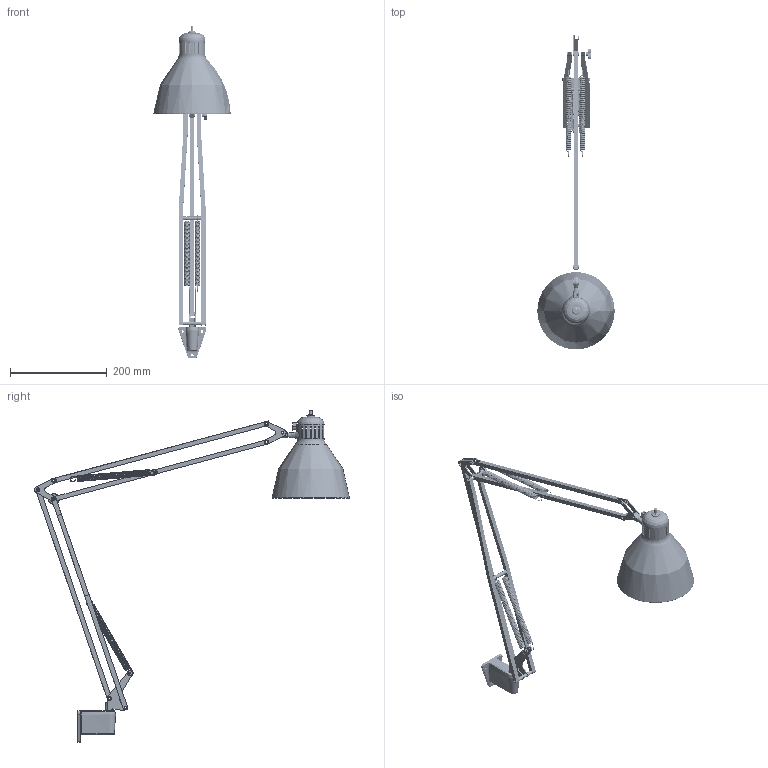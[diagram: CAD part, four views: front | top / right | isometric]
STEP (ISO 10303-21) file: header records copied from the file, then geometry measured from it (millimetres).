
FILE_DESCRIPTION(/* description */ (''),/* implementation_level */ '2;1');
FILE_NAME(/* name */ 'C:\Users\matteo.garelli\Desktop\JJ SMALL - WALL BRACKET.stp',/* time_stamp */ '2021-05-12T10:01:49+02:00',/* author */ ('matteo.garelli'),/* organization */ (''),/* preprocessor_version */ 'ST-DEVELOPER v18.1',/* originating_system */ 'Autodesk Inventor 2020',/* authorisation */ '');
FILE_SCHEMA (('AUTOMOTIVE_DESIGN { 1 0 10303 214 3 1 1 }'));
Products named in the file (1): JJ SMALL - WALL BRACKET
Bounding box: 160 x 651.36 x 686.86 mm (x, y, z)
Volume: 226339.5 mm3; surface area: 389563.4 mm2
Topology: 6 solids, 6 shells, 921 faces, 2657 edges, 1804 vertices
Faces by surface type: plane 375, cylinder 351, torus 89, bspline 73, cone 28, sphere 5
Full cylindrical faces by diameter (mm): 2 x2, 2.459 x1, 2.5 x2, 3 x3, 4 x6, 4.134 x1, 4.2 x6, 4.917 x1, 5 x20, 5.2 x18, 5.75 x2, 5.9 x1, 6 x8, 6.5 x1, 7 x6, 7.2 x1, 8 x16, 8.5 x12, 8.917 x1, 9 x1, 9.5 x2, 10 x2, 10.3 x1, 11 x1, 12 x2, 17 x1, 53 x1, 156.004 x1
Entity records: 85433 total; most frequent: CARTESIAN_POINT 59945, ORIENTED_EDGE 5280, DIRECTION 4972, EDGE_CURVE 2640, AXIS2_PLACEMENT_3D 1905, VERTEX_POINT 1776, LINE 1162, VECTOR 1162
